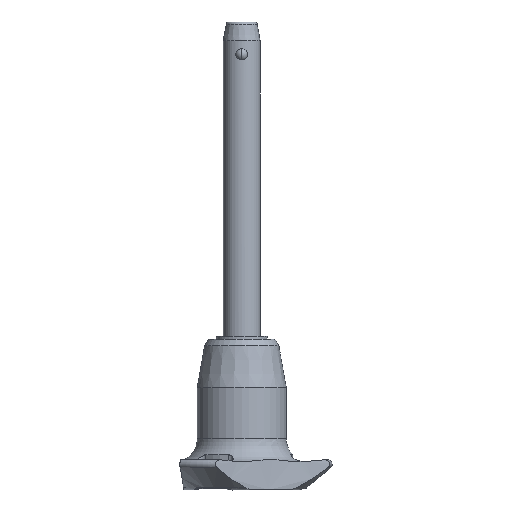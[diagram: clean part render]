
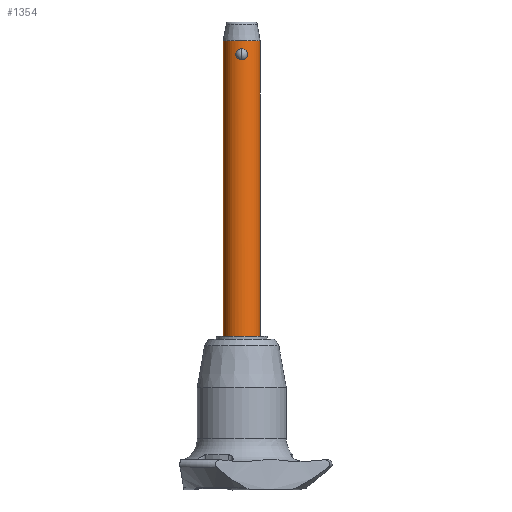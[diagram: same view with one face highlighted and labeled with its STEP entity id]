
A CAD part, front view. The second image highlights one B-rep face of the part: STEP entity #1354.
In plain terms, the highlighted cylindrical face has radius 4 mm (diameter 8 mm), a partial arc.
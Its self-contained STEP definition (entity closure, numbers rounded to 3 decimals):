
#27 = AXIS2_PLACEMENT_3D ( 'NONE', #2725, #2437, #1864 ) ;
#42 = CARTESIAN_POINT ( 'NONE',  ( 0.999, -3.874, 0.452 ) ) ;
#48 = ORIENTED_EDGE ( 'NONE', *, *, #747, .F. ) ;
#80 = CARTESIAN_POINT ( 'NONE',  ( -4., 0., -60. ) ) ;
#183 = CARTESIAN_POINT ( 'NONE',  ( -0.625, -3.951, 2.25 ) ) ;
#211 = CARTESIAN_POINT ( 'NONE',  ( 1.132, -3.836, 0.651 ) ) ;
#247 = CARTESIAN_POINT ( 'NONE',  ( -1.266, -3.794, 1.12 ) ) ;
#248 = CARTESIAN_POINT ( 'NONE',  ( 0.326, -3.99, 0.029 ) ) ;
#249 = EDGE_CURVE ( 'NONE', #1790, #486, #291, .T. ) ;
#279 = EDGE_LOOP ( 'NONE', ( #2253, #324 ) ) ;
#291 = LINE ( 'NONE', #1374, #1227 ) ;
#324 = ORIENTED_EDGE ( 'NONE', *, *, #502, .F. ) ;
#451 = CARTESIAN_POINT ( 'NONE',  ( 0.769, -3.927, 2.171 ) ) ;
#486 = VERTEX_POINT ( 'NONE', #2369 ) ;
#502 = EDGE_CURVE ( 'NONE', #2219, #2144, #695, .T. ) ;
#591 = VERTEX_POINT ( 'NONE', #2111 ) ;
#657 = CARTESIAN_POINT ( 'NONE',  ( 0., -4., 0. ) ) ;
#672 = EDGE_CURVE ( 'NONE', #2112, #591, #1133, .T. ) ;
#673 = CARTESIAN_POINT ( 'NONE',  ( 1.199, -3.816, 1.599 ) ) ;
#683 = CARTESIAN_POINT ( 'NONE',  ( 1.258, -3.797, 1.361 ) ) ;
#695 = B_SPLINE_CURVE_WITH_KNOTS ( 'NONE', 3,
 ( #657, #1059, #248, #1098, #1072, #1310, #42, #1257, #211, #861, #1041, #1919, #683, #2533, #673, #1890, #1928, #451, #2330, #2358, #1502, #1945 ),
 .UNSPECIFIED., .F., .F.,
 ( 4, 2, 2, 2, 2, 2, 2, 2, 2, 2, 4 ),
 ( 0.004, 0.004, 0.005, 0.005, 0.005, 0.006, 0.006, 0.006, 0.007, 0.007, 0.008 ),
 .UNSPECIFIED. ) ;
#747 = EDGE_CURVE ( 'NONE', #1790, #2112, #1231, .T. ) ;
#767 = EDGE_LOOP ( 'NONE', ( #1141, #48, #2291, #1972 ) ) ;
#809 = CARTESIAN_POINT ( 'NONE',  ( -0.628, -3.953, 0.143 ) ) ;
#821 = CARTESIAN_POINT ( 'NONE',  ( -0.162, -4., 0. ) ) ;
#835 = CIRCLE ( 'NONE', #2028, 4. ) ;
#838 = CARTESIAN_POINT ( 'NONE',  ( -0.998, -3.874, 1.949 ) ) ;
#861 = CARTESIAN_POINT ( 'NONE',  ( 1.231, -3.806, 0.873 ) ) ;
#898 = CARTESIAN_POINT ( 'NONE',  ( -0.325, -3.99, 2.371 ) ) ;
#1016 = CARTESIAN_POINT ( 'NONE',  ( -1.258, -3.797, 1.038 ) ) ;
#1029 = CARTESIAN_POINT ( 'NONE',  ( -1.231, -3.806, 1.527 ) ) ;
#1041 = CARTESIAN_POINT ( 'NONE',  ( 1.266, -3.794, 1.035 ) ) ;
#1059 = CARTESIAN_POINT ( 'NONE',  ( 0.162, -4., 0. ) ) ;
#1072 = CARTESIAN_POINT ( 'NONE',  ( 0.768, -3.927, 0.228 ) ) ;
#1098 = CARTESIAN_POINT ( 'NONE',  ( 0.627, -3.953, 0.143 ) ) ;
#1133 = LINE ( 'NONE', #80, #2642 ) ;
#1141 = ORIENTED_EDGE ( 'NONE', *, *, #672, .F. ) ;
#1212 = CARTESIAN_POINT ( 'NONE',  ( -4., 0., -60. ) ) ;
#1227 = VECTOR ( 'NONE', #1593, 1000. ) ;
#1231 = CIRCLE ( 'NONE', #27, 4. ) ;
#1232 = CARTESIAN_POINT ( 'NONE',  ( 4., 0., -60. ) ) ;
#1257 = CARTESIAN_POINT ( 'NONE',  ( 1.092, -3.848, 0.582 ) ) ;
#1310 = CARTESIAN_POINT ( 'NONE',  ( 0.944, -3.887, 0.391 ) ) ;
#1354 = ADVANCED_FACE ( 'NONE', ( #2042, #1834 ), #1849, .T. ) ;
#1374 = CARTESIAN_POINT ( 'NONE',  ( 4., 0., -60. ) ) ;
#1424 = EDGE_CURVE ( 'NONE', #486, #591, #835, .T. ) ;
#1502 = CARTESIAN_POINT ( 'NONE',  ( 0.164, -4., 2.4 ) ) ;
#1523 = EDGE_CURVE ( 'NONE', #2144, #2219, #1669, .T. ) ;
#1537 = CARTESIAN_POINT ( 'NONE',  ( -1.005, -3.874, 0.447 ) ) ;
#1593 = DIRECTION ( 'NONE',  ( 0., 0., 1. ) ) ;
#1594 = DIRECTION ( 'NONE',  ( 1., 0., 0. ) ) ;
#1655 = CARTESIAN_POINT ( 'NONE',  ( -0.326, -3.99, 0.029 ) ) ;
#1669 = B_SPLINE_CURVE_WITH_KNOTS ( 'NONE', 3,
 ( #2148, #1955, #898, #2306, #183, #2582, #2290, #1750, #838, #1685, #1737, #1029, #2592, #247, #1016, #2712, #2571, #2727, #1537, #2381, #809, #1655, #821, #2505 ),
 .UNSPECIFIED., .F., .F.,
 ( 4, 2, 2, 2, 2, 2, 2, 2, 2, 2, 2, 4 ),
 ( 0., 0., 0.001, 0.001, 0.001, 0.001, 0.002, 0.002, 0.002, 0.003, 0.003, 0.004 ),
 .UNSPECIFIED. ) ;
#1685 = CARTESIAN_POINT ( 'NONE',  ( -1.092, -3.848, 1.818 ) ) ;
#1737 = CARTESIAN_POINT ( 'NONE',  ( -1.133, -3.836, 1.747 ) ) ;
#1750 = CARTESIAN_POINT ( 'NONE',  ( -0.945, -3.887, 2.008 ) ) ;
#1790 = VERTEX_POINT ( 'NONE', #1232 ) ;
#1834 = FACE_BOUND ( 'NONE', #279, .T. ) ;
#1849 = CYLINDRICAL_SURFACE ( 'NONE', #1981, 4. ) ;
#1862 = CARTESIAN_POINT ( 'NONE',  ( 0., -4., 0. ) ) ;
#1864 = DIRECTION ( 'NONE',  ( 1., 0., 0. ) ) ;
#1890 = CARTESIAN_POINT ( 'NONE',  ( 1.101, -3.846, 1.82 ) ) ;
#1919 = CARTESIAN_POINT ( 'NONE',  ( 1.266, -3.794, 1.281 ) ) ;
#1928 = CARTESIAN_POINT ( 'NONE',  ( 1.005, -3.874, 1.953 ) ) ;
#1945 = CARTESIAN_POINT ( 'NONE',  ( 0., -4., 2.4 ) ) ;
#1955 = CARTESIAN_POINT ( 'NONE',  ( -0.164, -4., 2.4 ) ) ;
#1972 = ORIENTED_EDGE ( 'NONE', *, *, #1424, .T. ) ;
#1981 = AXIS2_PLACEMENT_3D ( 'NONE', #2008, #2652, #2072 ) ;
#2008 = CARTESIAN_POINT ( 'NONE',  ( 0., 0., -60. ) ) ;
#2028 = AXIS2_PLACEMENT_3D ( 'NONE', #2697, #2454, #1594 ) ;
#2042 = FACE_OUTER_BOUND ( 'NONE', #767, .T. ) ;
#2072 = DIRECTION ( 'NONE',  ( 1., 0., 0. ) ) ;
#2111 = CARTESIAN_POINT ( 'NONE',  ( -4., 0., 4.1 ) ) ;
#2112 = VERTEX_POINT ( 'NONE', #1212 ) ;
#2144 = VERTEX_POINT ( 'NONE', #2226 ) ;
#2148 = CARTESIAN_POINT ( 'NONE',  ( 0., -4., 2.4 ) ) ;
#2219 = VERTEX_POINT ( 'NONE', #1862 ) ;
#2226 = CARTESIAN_POINT ( 'NONE',  ( 0., -4., 2.4 ) ) ;
#2228 = DIRECTION ( 'NONE',  ( 0., 0., 1. ) ) ;
#2253 = ORIENTED_EDGE ( 'NONE', *, *, #1523, .F. ) ;
#2290 = CARTESIAN_POINT ( 'NONE',  ( -0.827, -3.914, 2.117 ) ) ;
#2291 = ORIENTED_EDGE ( 'NONE', *, *, #249, .T. ) ;
#2306 = CARTESIAN_POINT ( 'NONE',  ( -0.553, -3.962, 2.285 ) ) ;
#2330 = CARTESIAN_POINT ( 'NONE',  ( 0.629, -3.953, 2.256 ) ) ;
#2358 = CARTESIAN_POINT ( 'NONE',  ( 0.326, -3.99, 2.371 ) ) ;
#2369 = CARTESIAN_POINT ( 'NONE',  ( 4., 0., 4.1 ) ) ;
#2381 = CARTESIAN_POINT ( 'NONE',  ( -0.768, -3.927, 0.228 ) ) ;
#2437 = DIRECTION ( 'NONE',  ( 0., 0., -1. ) ) ;
#2454 = DIRECTION ( 'NONE',  ( 0., 0., -1. ) ) ;
#2505 = CARTESIAN_POINT ( 'NONE',  ( 0., -4., 0. ) ) ;
#2533 = CARTESIAN_POINT ( 'NONE',  ( 1.224, -3.808, 1.52 ) ) ;
#2571 = CARTESIAN_POINT ( 'NONE',  ( -1.199, -3.816, 0.802 ) ) ;
#2582 = CARTESIAN_POINT ( 'NONE',  ( -0.762, -3.927, 2.166 ) ) ;
#2592 = CARTESIAN_POINT ( 'NONE',  ( -1.266, -3.794, 1.364 ) ) ;
#2642 = VECTOR ( 'NONE', #2228, 1000. ) ;
#2652 = DIRECTION ( 'NONE',  ( 0., 0., 1. ) ) ;
#2697 = CARTESIAN_POINT ( 'NONE',  ( 0., 0., 4.1 ) ) ;
#2712 = CARTESIAN_POINT ( 'NONE',  ( -1.224, -3.808, 0.879 ) ) ;
#2725 = CARTESIAN_POINT ( 'NONE',  ( 0., 0., -60. ) ) ;
#2727 = CARTESIAN_POINT ( 'NONE',  ( -1.101, -3.846, 0.579 ) ) ;
